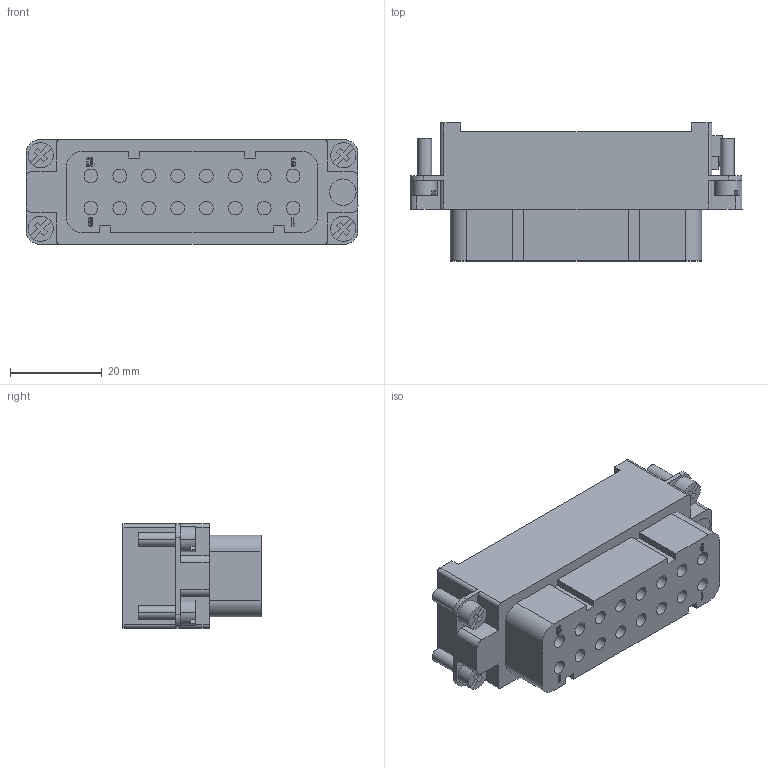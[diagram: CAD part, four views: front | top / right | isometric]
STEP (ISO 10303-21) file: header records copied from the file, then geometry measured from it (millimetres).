
FILE_DESCRIPTION (( 'STEP AP214' ), '1' );
FILE_NAME ('CDAF16.STEP', '2016-08-02T14:54:27', ( 'richard gronsfeld' ), ( '' ), 'SwSTEP 2.0', 'SolidWorks 2007', '' );
FILE_SCHEMA (( 'AUTOMOTIVE_DESIGN' ));
Length unit declared in the file: millimetre
Products named in the file (2): CDAF16; Imported_Défaut_Défaut_Défaut
Assembly tree (1 placements, depth 2):
  CDAF16
    Imported_Défaut_Défaut_Défaut
Bounding box: 72.4 x 30.1 x 22.8 mm (x, y, z)
Volume: 32707.9 mm3; surface area: 12622.4 mm2
Topology: 1 solids, 1 shells, 410 faces, 1036 edges, 690 vertices
Faces by surface type: plane 256, cylinder 154
Entity records: 16937 total; most frequent: DIRECTION 2192, CARTESIAN_POINT 2140, ORIENTED_EDGE 2072, EDGE_CURVE 1036, AXIS2_PLACEMENT_3D 742, LINE 708, VECTOR 708, VERTEX_POINT 690
